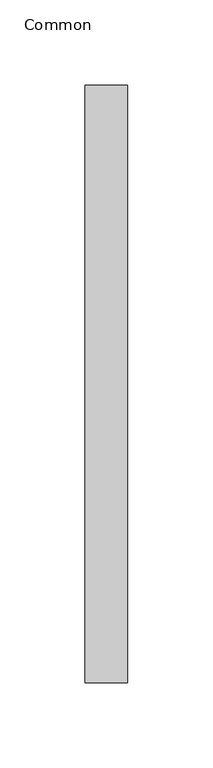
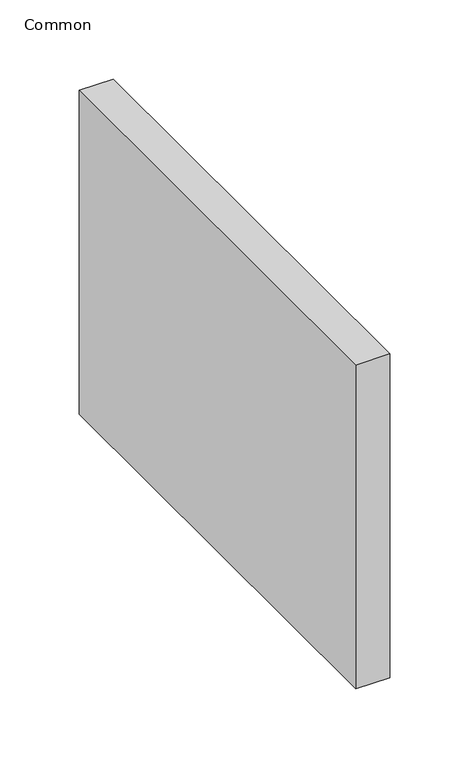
"""IFC4 building model written with IfcOpenShell, lengths in millimetres: duct fitting geometry, 081_角型エンドキャップ : Common."""

from ifc_helpers import new_model, si_unit, frame, origin, place, context, project, spatial, polyline, outline, extrude, source, transform, mapped, element, save


def common_497cf489(model_context):
    return source(origin(), model_context, "Body", "SweptSolid", [
        extrude(outline(polyline([(0.0, -175.0), (0.0, 175.0), (25.0, 175.0), (25.0, -175.0), (0.0, -175.0)])), frame((0.0, 0.0, -125.0), z_axis=(0.0, 0.0, 1.0), x_axis=(1.0, 0.0, 0.0)), (0.0, 0.0, 1.0), 250.0),
    ])


if __name__ == "__main__":
    model = new_model("IFC4")
    model_context = context("Model", 3, world=origin())
    ifc_project = project(units=[si_unit("LENGTHUNIT", "METRE", prefix="MILLI")], contexts=[model_context])
    site = spatial("IfcSite", under=ifc_project)
    building = spatial("IfcBuilding", under=site)
    placement = place(None, origin())
    common_shape = common_497cf489(model_context)
    element("IfcDuctFitting", 1, ObjectType="081_角型エンドキャップ : Common", at=placement, inside=building, context=model_context, shape_type="MappedRepresentation", body=[
        mapped(common_shape, transform((0.0, 0.0, 0.0), x_axis=(1.0, 0.0, 0.0), y_axis=(0.0, 1.0, 0.0), z_axis=(0.0, 0.0, 1.0))),
    ])
    save(model, "model.ifc")
